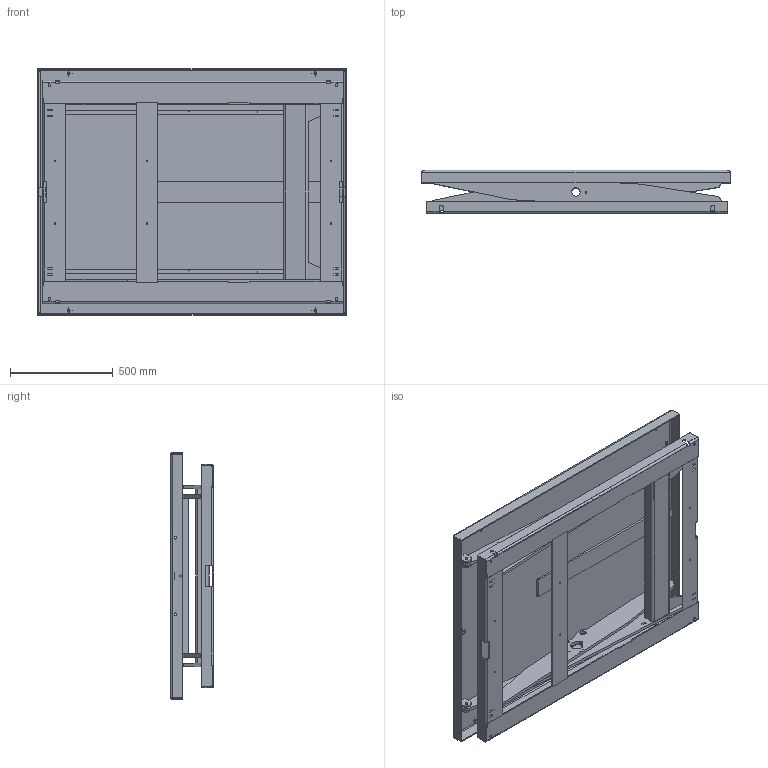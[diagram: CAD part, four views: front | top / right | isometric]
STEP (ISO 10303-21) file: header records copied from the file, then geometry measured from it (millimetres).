
FILE_DESCRIPTION(/* description */ (''),/* implementation_level */ '2;1');
FILE_NAME(/* name */ 'C:\Autodesk_VaultWork\Ritningar\Exporterade modeller\CB 1200 - (524828)\524828_Collapsed.stp',/* time_stamp */ '2019-05-21T09:13:13+02:00',/* author */ ('johso'),/* organization */ (''),/* preprocessor_version */ 'ST-DEVELOPER v16.5',/* originating_system */ 'Autodesk Inventor 2017',/* authorisation */ '');
FILE_SCHEMA (('AUTOMOTIVE_DESIGN { 1 0 10303 214 3 1 1 }'));
Length unit declared in the file: millimetre
Products named in the file (22): 524828; 607763; 607754; 607745; 607673; 607753; 607746; 82159 - 850; 607666; 607786; 607679; 607738; 607736; 607737; 607739; 607735; 607734; 22214-7; 85955; 42394; 80131; 45339
Assembly tree (40 placements, depth 4):
  524828
    607763
      607754
        607745  x2
        607666  x2
        607673
      607753
        607746  x2
        82159 - 850
        607666  x2
        607786  x2
      607679
    607738
      607736  x2
      607737  x2
      607739
      45339  x4
    607735
      607734
      22214-7
      85955
      80131  x4
      45339  x4
      42394  x2
Bounding box: 1500 x 210 x 1200 mm (x, y, z)
Volume: 28081680 mm3; surface area: 8243163.6 mm2
Topology: 34 solids, 34 shells, 1150 faces, 2993 edges, 1940 vertices
Faces by surface type: plane 739, cylinder 337, cone 58, torus 8, bspline 8
Full cylindrical faces by diameter (mm): 6.6 x4, 6.8 x6, 7.4 x2, 8 x4, 10.5 x6, 11.63 x4, 13 x4, 13.835 x1, 14.2 x2, 14.5 x8, 18.5 x1, 19 x1, 22 x8, 30 x4, 30.2 x2
Entity records: 19484 total; most frequent: CARTESIAN_POINT 3878, ORIENTED_EDGE 3082, DIRECTION 3082, EDGE_CURVE 1541, LINE 1180, VECTOR 1180, VERTEX_POINT 1021, AXIS2_PLACEMENT_3D 951
